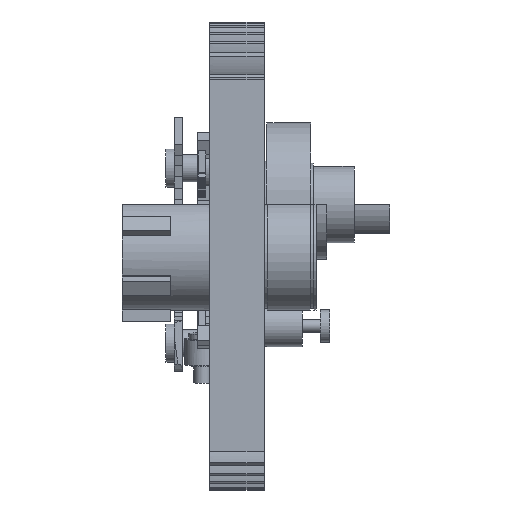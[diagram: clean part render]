
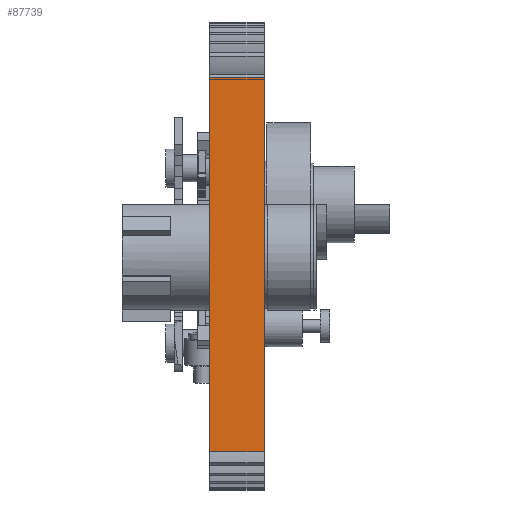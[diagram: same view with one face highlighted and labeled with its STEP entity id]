
A CAD part, top view. The second image highlights one B-rep face of the part: STEP entity #87739.
In plain terms, the highlighted planar face has unit normal (0, 0, 1).
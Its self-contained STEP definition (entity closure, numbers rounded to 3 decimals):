
#71814 = PLANE('',#71815);
#71815 = AXIS2_PLACEMENT_3D('',#71816,#71817,#71818);
#71816 = CARTESIAN_POINT('',(55.5,-59.4,0.));
#71817 = DIRECTION('',(1.,0.,0.));
#71818 = DIRECTION('',(0.,0.689,-0.725
    ));
#71892 = PLANE('',#71893);
#71893 = AXIS2_PLACEMENT_3D('',#71894,#71895,#71896);
#71894 = CARTESIAN_POINT('',(45.5,-59.4,0.));
#71895 = DIRECTION('',(1.,0.,0.));
#71896 = DIRECTION('',(0.,0.689,-0.725
    ));
#74413 = VERTEX_POINT('',#74414);
#74414 = CARTESIAN_POINT('',(55.5,-26.679,23.));
#74452 = SURFACE_OF_LINEAR_EXTRUSION('',#74453,#74469);
#74453 = B_SPLINE_CURVE_WITH_KNOTS('',3,(#74454,#74455,#74456,#74457,
    #74458,#74459,#74460,#74461,#74462,#74463,#74464,#74465,#74466,
    #74467,#74468),.UNSPECIFIED.,.F.,.F.,(4,1,1,1,1,1,1,1,1,1,1,1,4),(0.
    ,0.283,0.567,0.854,1.143,
    1.433,1.726,2.021,2.317,
    2.616,2.917,3.219,3.524),
  .UNSPECIFIED.);
#74454 = CARTESIAN_POINT('',(45.5,-27.032,22.684));
#74455 = CARTESIAN_POINT('',(45.5,-26.959,22.743));
#74456 = CARTESIAN_POINT('',(45.5,-26.816,22.866));
#74457 = CARTESIAN_POINT('',(45.5,-26.611,23.065));
#74458 = CARTESIAN_POINT('',(45.5,-26.413,23.272));
#74459 = CARTESIAN_POINT('',(45.5,-26.221,23.488));
#74460 = CARTESIAN_POINT('',(45.5,-26.034,23.711));
#74461 = CARTESIAN_POINT('',(45.5,-25.852,23.94));
#74462 = CARTESIAN_POINT('',(45.5,-25.675,24.175));
#74463 = CARTESIAN_POINT('',(45.5,-25.502,24.416));
#74464 = CARTESIAN_POINT('',(45.5,-25.333,24.662));
#74465 = CARTESIAN_POINT('',(45.5,-25.168,24.914));
#74466 = CARTESIAN_POINT('',(45.5,-25.006,25.17));
#74467 = CARTESIAN_POINT('',(45.5,-24.902,25.343));
#74468 = CARTESIAN_POINT('',(45.5,-24.85,25.431));
#74469 = VECTOR('',#74470,1.);
#74470 = DIRECTION('',(-1.,0.,0.));
#74478 = EDGE_CURVE('',#74413,#74479,#74481,.T.);
#74479 = VERTEX_POINT('',#74480);
#74480 = CARTESIAN_POINT('',(55.5,-95.309,23.));
#74481 = SURFACE_CURVE('',#74482,(#74486,#74492),.PCURVE_S1.);
#74482 = LINE('',#74483,#74484);
#74483 = CARTESIAN_POINT('',(55.5,-92.7,23.));
#74484 = VECTOR('',#74485,1.);
#74485 = DIRECTION('',(0.,-1.,0.));
#74486 = PCURVE('',#71814,#74487);
#74487 = DEFINITIONAL_REPRESENTATION('',(#74488),#74491);
#74488 = B_SPLINE_CURVE_WITH_KNOTS('',1,(#74489,#74490),.UNSPECIFIED.,
  .F.,.F.,(2,2),(-70.631,4.764),
  .PIECEWISE_BEZIER_KNOTS.);
#74489 = CARTESIAN_POINT('',(9.067,42.9));
#74490 = CARTESIAN_POINT('',(-42.9,-11.725));
#74491 = ( GEOMETRIC_REPRESENTATION_CONTEXT(2) 
PARAMETRIC_REPRESENTATION_CONTEXT() REPRESENTATION_CONTEXT('2D SPACE',''
  ) );
#74492 = PCURVE('',#74493,#74498);
#74493 = PLANE('',#74494);
#74494 = AXIS2_PLACEMENT_3D('',#74495,#74496,#74497);
#74495 = CARTESIAN_POINT('',(29.5,-126.,23.));
#74496 = DIRECTION('',(0.,0.,1.));
#74497 = DIRECTION('',(1.,0.,-0.));
#74498 = DEFINITIONAL_REPRESENTATION('',(#74499),#74502);
#74499 = B_SPLINE_CURVE_WITH_KNOTS('',1,(#74500,#74501),.UNSPECIFIED.,
  .F.,.F.,(2,2),(-70.631,4.764),
  .PIECEWISE_BEZIER_KNOTS.);
#74500 = CARTESIAN_POINT('',(26.,103.931));
#74501 = CARTESIAN_POINT('',(26.,28.536));
#74502 = ( GEOMETRIC_REPRESENTATION_CONTEXT(2) 
PARAMETRIC_REPRESENTATION_CONTEXT() REPRESENTATION_CONTEXT('2D SPACE',''
  ) );
#74544 = SURFACE_OF_LINEAR_EXTRUSION('',#74545,#74561);
#74545 = B_SPLINE_CURVE_WITH_KNOTS('',3,(#74546,#74547,#74548,#74549,
    #74550,#74551,#74552,#74553,#74554,#74555,#74556,#74557,#74558,
    #74559,#74560),.UNSPECIFIED.,.F.,.F.,(4,1,1,1,1,1,1,1,1,1,1,1,4),(0.
    ,0.305,0.607,0.908,1.207,
    1.503,1.798,2.091,2.382,
    2.67,2.957,3.241,3.524),
  .UNSPECIFIED.);
#74546 = CARTESIAN_POINT('',(45.5,-95.467,23.229));
#74547 = CARTESIAN_POINT('',(45.5,-95.41,23.145));
#74548 = CARTESIAN_POINT('',(45.5,-95.295,22.978));
#74549 = CARTESIAN_POINT('',(45.5,-95.118,22.733));
#74550 = CARTESIAN_POINT('',(45.5,-94.938,22.492));
#74551 = CARTESIAN_POINT('',(45.5,-94.753,22.257));
#74552 = CARTESIAN_POINT('',(45.5,-94.566,22.027));
#74553 = CARTESIAN_POINT('',(45.5,-94.374,21.804));
#74554 = CARTESIAN_POINT('',(45.5,-94.178,21.586));
#74555 = CARTESIAN_POINT('',(45.5,-93.977,21.375));
#74556 = CARTESIAN_POINT('',(45.5,-93.772,21.172));
#74557 = CARTESIAN_POINT('',(45.5,-93.562,20.977));
#74558 = CARTESIAN_POINT('',(45.5,-93.346,20.792));
#74559 = CARTESIAN_POINT('',(45.5,-93.195,20.678));
#74560 = CARTESIAN_POINT('',(45.5,-93.118,20.624));
#74561 = VECTOR('',#74562,1.);
#74562 = DIRECTION('',(-1.,0.,0.));
#81250 = VERTEX_POINT('',#81251);
#81251 = CARTESIAN_POINT('',(45.5,-26.679,23.));
#81296 = EDGE_CURVE('',#81250,#81297,#81299,.T.);
#81297 = VERTEX_POINT('',#81298);
#81298 = CARTESIAN_POINT('',(45.5,-95.309,23.));
#81299 = SURFACE_CURVE('',#81300,(#81304,#81310),.PCURVE_S1.);
#81300 = LINE('',#81301,#81302);
#81301 = CARTESIAN_POINT('',(45.5,-92.7,23.));
#81302 = VECTOR('',#81303,1.);
#81303 = DIRECTION('',(0.,-1.,0.));
#81304 = PCURVE('',#71892,#81305);
#81305 = DEFINITIONAL_REPRESENTATION('',(#81306),#81309);
#81306 = B_SPLINE_CURVE_WITH_KNOTS('',1,(#81307,#81308),.UNSPECIFIED.,
  .F.,.F.,(2,2),(-70.631,4.764),
  .PIECEWISE_BEZIER_KNOTS.);
#81307 = CARTESIAN_POINT('',(9.067,42.9));
#81308 = CARTESIAN_POINT('',(-42.9,-11.725));
#81309 = ( GEOMETRIC_REPRESENTATION_CONTEXT(2) 
PARAMETRIC_REPRESENTATION_CONTEXT() REPRESENTATION_CONTEXT('2D SPACE',''
  ) );
#81310 = PCURVE('',#74493,#81311);
#81311 = DEFINITIONAL_REPRESENTATION('',(#81312),#81315);
#81312 = B_SPLINE_CURVE_WITH_KNOTS('',1,(#81313,#81314),.UNSPECIFIED.,
  .F.,.F.,(2,2),(-70.631,4.764),
  .PIECEWISE_BEZIER_KNOTS.);
#81313 = CARTESIAN_POINT('',(16.,103.931));
#81314 = CARTESIAN_POINT('',(16.,28.536));
#81315 = ( GEOMETRIC_REPRESENTATION_CONTEXT(2) 
PARAMETRIC_REPRESENTATION_CONTEXT() REPRESENTATION_CONTEXT('2D SPACE',''
  ) );
#87711 = EDGE_CURVE('',#74479,#81297,#87712,.T.);
#87712 = SURFACE_CURVE('',#87713,(#87719,#87728),.PCURVE_S1.);
#87713 = B_SPLINE_CURVE_WITH_KNOTS('',4,(#87714,#87715,#87716,#87717,
    #87718),.UNSPECIFIED.,.F.,.F.,(5,5),(0.,1.),
  .PIECEWISE_BEZIER_KNOTS.);
#87714 = CARTESIAN_POINT('',(55.5,-95.309,23.));
#87715 = CARTESIAN_POINT('',(53.,-95.309,23.));
#87716 = CARTESIAN_POINT('',(50.5,-95.309,23.));
#87717 = CARTESIAN_POINT('',(48.,-95.309,23.));
#87718 = CARTESIAN_POINT('',(45.5,-95.309,23.));
#87719 = PCURVE('',#74544,#87720);
#87720 = DEFINITIONAL_REPRESENTATION('',(#87721),#87727);
#87721 = B_SPLINE_CURVE_WITH_KNOTS('',4,(#87722,#87723,#87724,#87725,
    #87726),.UNSPECIFIED.,.F.,.F.,(5,5),(0.,1.),
  .PIECEWISE_BEZIER_KNOTS.);
#87722 = CARTESIAN_POINT('',(0.278,-10.));
#87723 = CARTESIAN_POINT('',(0.278,-7.5));
#87724 = CARTESIAN_POINT('',(0.278,-5.));
#87725 = CARTESIAN_POINT('',(0.278,-2.5));
#87726 = CARTESIAN_POINT('',(0.278,0.));
#87727 = ( GEOMETRIC_REPRESENTATION_CONTEXT(2) 
PARAMETRIC_REPRESENTATION_CONTEXT() REPRESENTATION_CONTEXT('2D SPACE',''
  ) );
#87728 = PCURVE('',#74493,#87729);
#87729 = DEFINITIONAL_REPRESENTATION('',(#87730),#87736);
#87730 = B_SPLINE_CURVE_WITH_KNOTS('',4,(#87731,#87732,#87733,#87734,
    #87735),.UNSPECIFIED.,.F.,.F.,(5,5),(0.,1.),
  .PIECEWISE_BEZIER_KNOTS.);
#87731 = CARTESIAN_POINT('',(26.,30.691));
#87732 = CARTESIAN_POINT('',(23.5,30.691));
#87733 = CARTESIAN_POINT('',(21.,30.691));
#87734 = CARTESIAN_POINT('',(18.5,30.691));
#87735 = CARTESIAN_POINT('',(16.,30.691));
#87736 = ( GEOMETRIC_REPRESENTATION_CONTEXT(2) 
PARAMETRIC_REPRESENTATION_CONTEXT() REPRESENTATION_CONTEXT('2D SPACE',''
  ) );
#87739 = ADVANCED_FACE('',(#87740),#74493,.T.);
#87740 = FACE_BOUND('',#87741,.T.);
#87741 = EDGE_LOOP('',(#87742,#87743,#87770,#87771));
#87742 = ORIENTED_EDGE('',*,*,#74478,.F.);
#87743 = ORIENTED_EDGE('',*,*,#87744,.T.);
#87744 = EDGE_CURVE('',#74413,#81250,#87745,.T.);
#87745 = SURFACE_CURVE('',#87746,(#87752,#87761),.PCURVE_S1.);
#87746 = B_SPLINE_CURVE_WITH_KNOTS('',4,(#87747,#87748,#87749,#87750,
    #87751),.UNSPECIFIED.,.F.,.F.,(5,5),(0.,1.),
  .PIECEWISE_BEZIER_KNOTS.);
#87747 = CARTESIAN_POINT('',(55.5,-26.679,23.));
#87748 = CARTESIAN_POINT('',(53.,-26.679,23.));
#87749 = CARTESIAN_POINT('',(50.5,-26.679,23.));
#87750 = CARTESIAN_POINT('',(48.,-26.679,23.));
#87751 = CARTESIAN_POINT('',(45.5,-26.679,23.));
#87752 = PCURVE('',#74493,#87753);
#87753 = DEFINITIONAL_REPRESENTATION('',(#87754),#87760);
#87754 = B_SPLINE_CURVE_WITH_KNOTS('',4,(#87755,#87756,#87757,#87758,
    #87759),.UNSPECIFIED.,.F.,.F.,(5,5),(0.,1.),
  .PIECEWISE_BEZIER_KNOTS.);
#87755 = CARTESIAN_POINT('',(26.,99.321));
#87756 = CARTESIAN_POINT('',(23.5,99.321));
#87757 = CARTESIAN_POINT('',(21.,99.321));
#87758 = CARTESIAN_POINT('',(18.5,99.321));
#87759 = CARTESIAN_POINT('',(16.,99.321));
#87760 = ( GEOMETRIC_REPRESENTATION_CONTEXT(2) 
PARAMETRIC_REPRESENTATION_CONTEXT() REPRESENTATION_CONTEXT('2D SPACE',''
  ) );
#87761 = PCURVE('',#74452,#87762);
#87762 = DEFINITIONAL_REPRESENTATION('',(#87763),#87769);
#87763 = B_SPLINE_CURVE_WITH_KNOTS('',4,(#87764,#87765,#87766,#87767,
    #87768),.UNSPECIFIED.,.F.,.F.,(5,5),(0.,1.),
  .PIECEWISE_BEZIER_KNOTS.);
#87764 = CARTESIAN_POINT('',(0.474,-10.));
#87765 = CARTESIAN_POINT('',(0.474,-7.5));
#87766 = CARTESIAN_POINT('',(0.474,-5.));
#87767 = CARTESIAN_POINT('',(0.474,-2.5));
#87768 = CARTESIAN_POINT('',(0.474,0.));
#87769 = ( GEOMETRIC_REPRESENTATION_CONTEXT(2) 
PARAMETRIC_REPRESENTATION_CONTEXT() REPRESENTATION_CONTEXT('2D SPACE',''
  ) );
#87770 = ORIENTED_EDGE('',*,*,#81296,.T.);
#87771 = ORIENTED_EDGE('',*,*,#87711,.F.);
